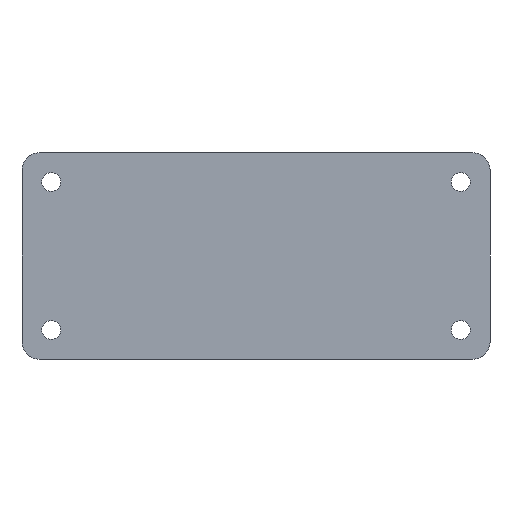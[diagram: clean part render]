
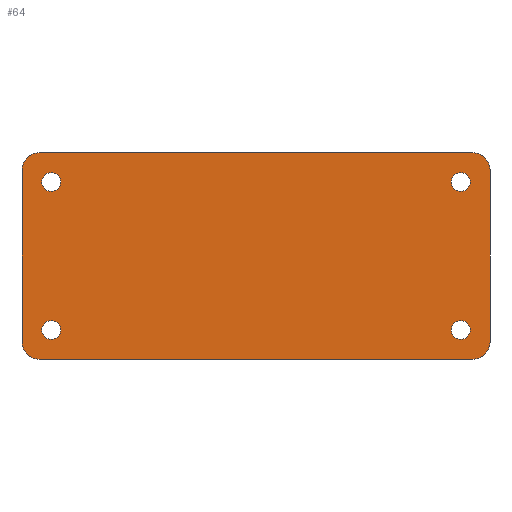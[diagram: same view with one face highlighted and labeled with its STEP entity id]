
A CAD part, front view. The second image highlights one B-rep face of the part: STEP entity #64.
In plain terms, the highlighted planar face has unit normal (0, -1, 0).
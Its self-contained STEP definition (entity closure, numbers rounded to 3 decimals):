
#64 = ADVANCED_FACE( '', ( #137, #138, #139, #140, #141 ), #142, .F. );
#137 = FACE_BOUND( '', #241, .T. );
#138 = FACE_BOUND( '', #242, .T. );
#139 = FACE_BOUND( '', #243, .T. );
#140 = FACE_BOUND( '', #244, .T. );
#141 = FACE_OUTER_BOUND( '', #245, .T. );
#142 = PLANE( '', #246 );
#241 = EDGE_LOOP( '', ( #598 ) );
#242 = EDGE_LOOP( '', ( #599 ) );
#243 = EDGE_LOOP( '', ( #600 ) );
#244 = EDGE_LOOP( '', ( #601 ) );
#245 = EDGE_LOOP( '', ( #602, #603, #604, #605, #606, #607, #608, #609 ) );
#246 = AXIS2_PLACEMENT_3D( '', #610, #611, #612 );
#598 = ORIENTED_EDGE( '', *, *, #786, .T. );
#599 = ORIENTED_EDGE( '', *, *, #811, .T. );
#600 = ORIENTED_EDGE( '', *, *, #812, .T. );
#601 = ORIENTED_EDGE( '', *, *, #813, .T. );
#602 = ORIENTED_EDGE( '', *, *, #775, .F. );
#603 = ORIENTED_EDGE( '', *, *, #766, .F. );
#604 = ORIENTED_EDGE( '', *, *, #814, .F. );
#605 = ORIENTED_EDGE( '', *, *, #771, .F. );
#606 = ORIENTED_EDGE( '', *, *, #759, .F. );
#607 = ORIENTED_EDGE( '', *, *, #781, .F. );
#608 = ORIENTED_EDGE( '', *, *, #808, .F. );
#609 = ORIENTED_EDGE( '', *, *, #815, .F. );
#610 = CARTESIAN_POINT( '', ( -63., 0., 25. ) );
#611 = DIRECTION( '', ( 0., 1., 0. ) );
#612 = DIRECTION( '', ( 0., 0., 1. ) );
#759 = EDGE_CURVE( '', #869, #870, #871, .T. );
#766 = EDGE_CURVE( '', #882, #883, #884, .T. );
#771 = EDGE_CURVE( '', #870, #891, #892, .T. );
#775 = EDGE_CURVE( '', #883, #897, #898, .T. );
#781 = EDGE_CURVE( '', #907, #869, #908, .T. );
#786 = EDGE_CURVE( '', #915, #915, #916, .T. );
#808 = EDGE_CURVE( '', #954, #907, #955, .T. );
#811 = EDGE_CURVE( '', #958, #958, #959, .T. );
#812 = EDGE_CURVE( '', #960, #960, #961, .T. );
#813 = EDGE_CURVE( '', #962, #962, #963, .T. );
#814 = EDGE_CURVE( '', #891, #882, #964, .T. );
#815 = EDGE_CURVE( '', #897, #954, #965, .T. );
#869 = VERTEX_POINT( '', #1051 );
#870 = VERTEX_POINT( '', #1052 );
#871 = LINE( '', #1053, #1054 );
#882 = VERTEX_POINT( '', #1072 );
#883 = VERTEX_POINT( '', #1073 );
#884 = CIRCLE( '', #1074, 5. );
#891 = VERTEX_POINT( '', #1083 );
#892 = CIRCLE( '', #1084, 5. );
#897 = VERTEX_POINT( '', #1090 );
#898 = LINE( '', #1091, #1092 );
#907 = VERTEX_POINT( '', #1107 );
#908 = CIRCLE( '', #1108, 5. );
#915 = VERTEX_POINT( '', #1116 );
#916 = CIRCLE( '', #1117, 2.75 );
#954 = VERTEX_POINT( '', #1248 );
#955 = LINE( '', #1249, #1250 );
#958 = VERTEX_POINT( '', #1254 );
#959 = CIRCLE( '', #1255, 2.75 );
#960 = VERTEX_POINT( '', #1256 );
#961 = CIRCLE( '', #1257, 2.75 );
#962 = VERTEX_POINT( '', #1258 );
#963 = CIRCLE( '', #1259, 2.75 );
#964 = LINE( '', #1260, #1261 );
#965 = CIRCLE( '', #1262, 5. );
#1051 = CARTESIAN_POINT( '', ( 68., 0., 25. ) );
#1052 = CARTESIAN_POINT( '', ( 68., 0., -25. ) );
#1053 = CARTESIAN_POINT( '', ( 68., 0., 25. ) );
#1054 = VECTOR( '', #1528, 1000. );
#1072 = CARTESIAN_POINT( '', ( -63., 0., -30. ) );
#1073 = CARTESIAN_POINT( '', ( -68., 0., -25. ) );
#1074 = AXIS2_PLACEMENT_3D( '', #1533, #1534, #1535 );
#1083 = CARTESIAN_POINT( '', ( 63., 0., -30. ) );
#1084 = AXIS2_PLACEMENT_3D( '', #1541, #1542, #1543 );
#1090 = CARTESIAN_POINT( '', ( -68., 0., 25. ) );
#1091 = CARTESIAN_POINT( '', ( -68., 0., -25. ) );
#1092 = VECTOR( '', #1548, 1000. );
#1107 = CARTESIAN_POINT( '', ( 63., 0., 30. ) );
#1108 = AXIS2_PLACEMENT_3D( '', #1552, #1553, #1554 );
#1116 = CARTESIAN_POINT( '', ( -56.75, 0., 21.5 ) );
#1117 = AXIS2_PLACEMENT_3D( '', #1562, #1563, #1564 );
#1248 = CARTESIAN_POINT( '', ( -63., 0., 30. ) );
#1249 = CARTESIAN_POINT( '', ( -63., 0., 30. ) );
#1250 = VECTOR( '', #1572, 1000. );
#1254 = CARTESIAN_POINT( '', ( -56.75, 0., -21.5 ) );
#1255 = AXIS2_PLACEMENT_3D( '', #1574, #1575, #1576 );
#1256 = CARTESIAN_POINT( '', ( 62.25, 0., -21.5 ) );
#1257 = AXIS2_PLACEMENT_3D( '', #1577, #1578, #1579 );
#1258 = CARTESIAN_POINT( '', ( 62.25, 0., 21.5 ) );
#1259 = AXIS2_PLACEMENT_3D( '', #1580, #1581, #1582 );
#1260 = CARTESIAN_POINT( '', ( 63., 0., -30. ) );
#1261 = VECTOR( '', #1583, 1000. );
#1262 = AXIS2_PLACEMENT_3D( '', #1584, #1585, #1586 );
#1528 = DIRECTION( '', ( 0., 0., -1. ) );
#1533 = CARTESIAN_POINT( '', ( -63., 0., -25. ) );
#1534 = DIRECTION( '', ( 0., 1., 0. ) );
#1535 = DIRECTION( '', ( 1., 0., 0. ) );
#1541 = CARTESIAN_POINT( '', ( 63., 0., -25. ) );
#1542 = DIRECTION( '', ( 0., 1., 0. ) );
#1543 = DIRECTION( '', ( 1., 0., 0. ) );
#1548 = DIRECTION( '', ( 0., 0., 1. ) );
#1552 = CARTESIAN_POINT( '', ( 63., 0., 25. ) );
#1553 = DIRECTION( '', ( 0., 1., 0. ) );
#1554 = DIRECTION( '', ( 1., 0., 0. ) );
#1562 = CARTESIAN_POINT( '', ( -59.5, 0., 21.5 ) );
#1563 = DIRECTION( '', ( 0., 1., 0. ) );
#1564 = DIRECTION( '', ( 1., 0., 0. ) );
#1572 = DIRECTION( '', ( 1., 0., 0. ) );
#1574 = CARTESIAN_POINT( '', ( -59.5, 0., -21.5 ) );
#1575 = DIRECTION( '', ( 0., 1., 0. ) );
#1576 = DIRECTION( '', ( 1., 0., 0. ) );
#1577 = CARTESIAN_POINT( '', ( 59.5, 0., -21.5 ) );
#1578 = DIRECTION( '', ( 0., 1., 0. ) );
#1579 = DIRECTION( '', ( 1., 0., 0. ) );
#1580 = CARTESIAN_POINT( '', ( 59.5, 0., 21.5 ) );
#1581 = DIRECTION( '', ( 0., 1., 0. ) );
#1582 = DIRECTION( '', ( 1., 0., 0. ) );
#1583 = DIRECTION( '', ( -1., 0., 0. ) );
#1584 = CARTESIAN_POINT( '', ( -63., 0., 25. ) );
#1585 = DIRECTION( '', ( 0., 1., 0. ) );
#1586 = DIRECTION( '', ( 1., 0., 0. ) );
